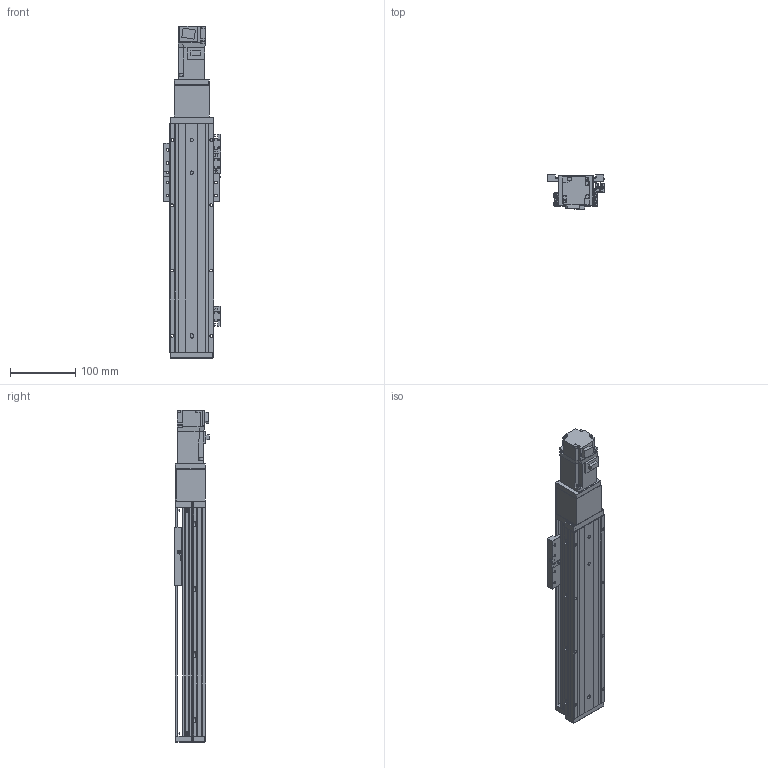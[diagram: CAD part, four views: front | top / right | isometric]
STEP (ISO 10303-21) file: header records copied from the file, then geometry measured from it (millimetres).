
FILE_DESCRIPTION (( 'STEP AP203' ), '1' );
FILE_NAME ('KTHAL60-200-BC-M10-C4L.step', '2022-03-19T08:34:25', ( '微软用户' ), ( '微软中国' ), 'SwSTEP 2.0', 'SolidWorks 2020', '' );
FILE_SCHEMA (( 'CONFIG_CONTROL_DESIGN' ));
Length unit declared in the file: millimetre
Products named in the file (18): CTHA60-021; KTHAL60-200-BC-M10-C4L; KTHA60-004; GBT 70.1-M4×16; KTHA60-005; GBT77-2000M3-3; GB¨uT 70.2-M3¡Á5_M3¡Á6; GBT 70.1-M3℅6; GBT 70.3-M3℅6; CTHA60-016; EE_SX911P_R; CTHA60-013; CTHA60-006-2_CTHA60-006-2; KTHA60-001_350; CTHA60-017; HG-KR13（三菱）; CTHA60-027; KTHLA60-002
Assembly tree (50 placements, depth 2):
  KTHAL60-200-BC-M10-C4L
    KTHA60-001_350
    KTHLA60-002
    KTHA60-004
    KTHA60-005
    GB¨uT 70.2-M3¡Á5_M3¡Á6  x5
    GBT 70.3-M3℅6  x6
    EE_SX911P_R  x3
    CTHA60-017  x3
    CTHA60-021  x2
    GBT 70.1-M4×16  x10
    GBT77-2000M3-3  x6
    GBT 70.1-M3℅6  x6
    CTHA60-016
    CTHA60-006-2_CTHA60-006-2
    CTHA60-027
    CTHA60-013
    HG-KR13（三菱）
Bounding box: 87.82 x 53.3 x 508.6 mm (x, y, z)
Volume: 951320.2 mm3; surface area: 253190.6 mm2
Topology: 53 solids, 53 shells, 2140 faces, 5050 edges, 3093 vertices
Faces by surface type: plane 1246, cylinder 507, cone 287, torus 86, sphere 14
Entity records: 34774 total; most frequent: CARTESIAN_POINT 5690, DIRECTION 5580, ORIENTED_EDGE 5304, EDGE_CURVE 2652, LINE 1886, VECTOR 1886, AXIS2_PLACEMENT_3D 1847, VERTEX_POINT 1661
